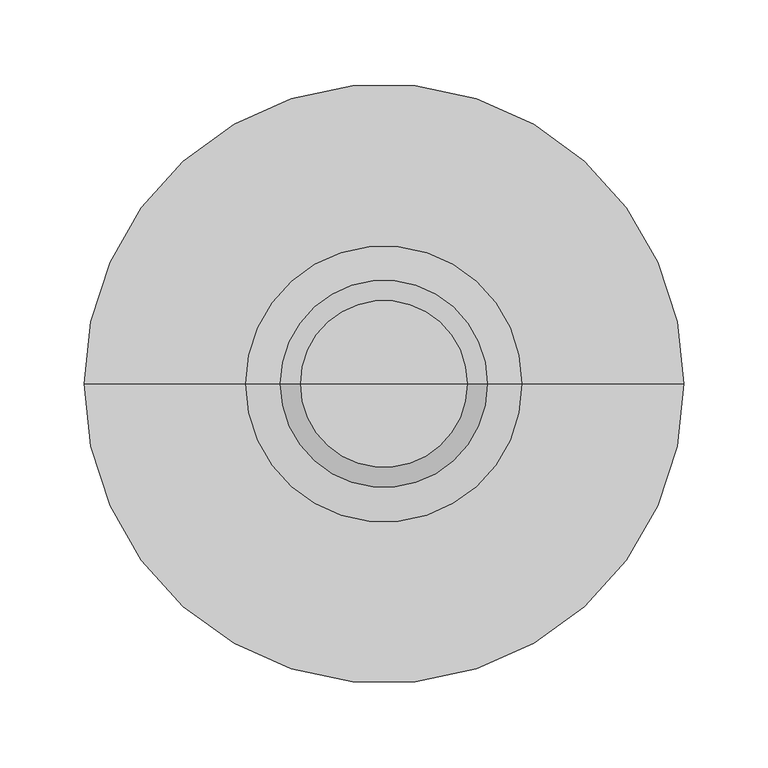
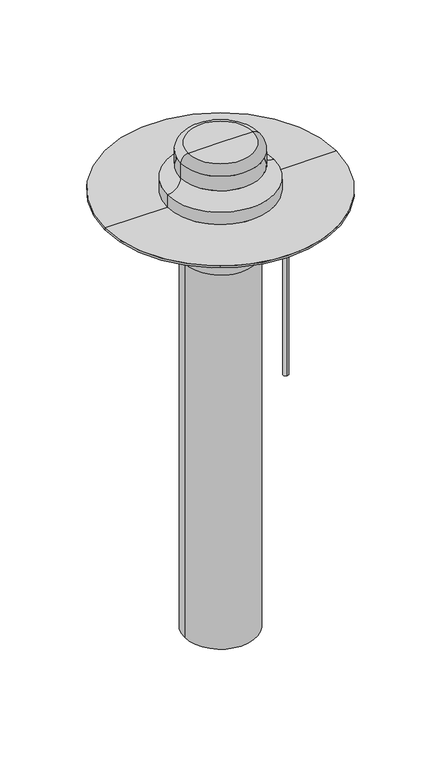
"""IFC4 building model written with IfcOpenShell, lengths in millimetres: flow terminal geometry, BIMLIB_Воронка_Кровельная_Fachmann_VMO : 110х720."""

from ifc_helpers import new_model, si_unit, point, frame, frame_2d, origin, origin_with_axes, place, context, project, spatial, polyline, circle_curve, ellipse_curve, trimmed, segment, composite_curve, outline, extrude, source, transform, mapped, element, save
from ifc_brep_helpers import plane_surface, cylinder_surface, revolved_surface, advanced_brep


def flow_terminal_63c5b1d7(model_context):
    return source(origin(), model_context, "Body", "SolidModel", [
        extrude(outline(composite_curve([segment(trimmed(circle_curve(frame_2d((100.0, 0.0)), 4.0), [point((100.0, 4.0))], [point((100.0, -4.0))], False, "CARTESIAN"), True, "CONTINUOUS"), segment(trimmed(circle_curve(frame_2d((100.0, 0.0)), 4.0), [point((100.0, -4.0))], [point((100.0, 4.0))], False, "CARTESIAN"), True, "CONTINUOUS")], self_intersect=False)), frame((0.0, 0.0, -332.0), z_axis=(0.0, 0.0, 1.0), x_axis=(1.0, 0.0, 0.0)), (0.0, 0.0, 1.0), 300.0),
        advanced_brep(
        [(55.0, 0.0, -705.0), (-55.0, 0.0, -705.0), (-55.0, 0.0, -98.0), (55.0, 0.0, -98.0), (-113.0, 0.0, -9.0), (113.0, 0.0, -9.0), (113.0, 0.0, -32.0), (-113.0, 0.0, -32.0), (0.0, 0.0, 0.0), (138.0, 0.0, 0.0), (-138.0, 0.0, 0.0), (-90.0, 0.0, -32.0), (90.0, 0.0, -32.0), (90.0, 0.0, -40.0), (-90.0, 0.0, -40.0)],
        [
            (0, 1, circle_curve(frame((0.0, 0.0, -705.0), z_axis=(0.0, 0.0, -1.0), x_axis=(-1.0, 0.0, 0.0)), 55.0)),
            (1, 0, circle_curve(frame((0.0, 0.0, -705.0), z_axis=(0.0, 0.0, -1.0), x_axis=(-1.0, 0.0, 0.0)), 55.0)),
            (1, 2),
            (2, 3, circle_curve(frame((0.0, 0.0, -98.0), z_axis=(0.0, 0.0, -1.0), x_axis=(-1.0, 0.0, 0.0)), 55.0)),
            (3, 0),
            (3, 2, circle_curve(frame((0.0, 0.0, -98.0), z_axis=(0.0, 0.0, -1.0), x_axis=(-1.0, 0.0, 0.0)), 55.0)),
            (4, 5, circle_curve(frame((0.0, 0.0, -9.0), z_axis=(0.0, 0.0, -1.0), x_axis=(1.0, 0.0, 0.0)), 113.0)),
            (5, 6),
            (6, 7, circle_curve(frame((0.0, 0.0, -32.0), z_axis=(0.0, 0.0, 1.0), x_axis=(1.0, 0.0, 0.0)), 113.0)),
            (7, 4),
            (5, 4, circle_curve(frame((0.0, 0.0, -9.0), z_axis=(0.0, 0.0, -1.0), x_axis=(1.0, 0.0, 0.0)), 113.0)),
            (7, 6, circle_curve(frame((0.0, 0.0, -32.0), z_axis=(0.0, 0.0, 1.0), x_axis=(1.0, 0.0, 0.0)), 113.0)),
            (8, 9),
            (9, 10, circle_curve(origin_with_axes(), 138.0)),
            (10, 8),
            (10, 9, circle_curve(origin_with_axes(), 138.0)),
            (4, 10),
            (9, 5),
            (11, 12, circle_curve(frame((0.0, 0.0, -32.0), z_axis=(0.0, 0.0, -1.0), x_axis=(1.0, 0.0, 0.0)), 90.0)),
            (12, 13),
            (13, 14, circle_curve(frame((0.0, 0.0, -40.0), z_axis=(0.0, 0.0, 1.0), x_axis=(1.0, 0.0, 0.0)), 90.0)),
            (14, 11),
            (12, 11, circle_curve(frame((0.0, 0.0, -32.0), z_axis=(0.0, 0.0, -1.0), x_axis=(1.0, 0.0, 0.0)), 90.0)),
            (14, 13, circle_curve(frame((0.0, 0.0, -40.0), z_axis=(0.0, 0.0, 1.0), x_axis=(1.0, 0.0, 0.0)), 90.0)),
            (6, 12),
            (11, 7),
            (13, 3),
            (2, 14),
        ],
        [
            plane_surface(frame((-55.0, 0.0, -705.0), z_axis=(0.0, 0.0, -1.0), x_axis=(0.0, 1.0, 0.0))),
            cylinder_surface(frame((0.0, 0.0, -705.0), z_axis=(0.0, 0.0, 1.0), x_axis=(-1.0, 0.0, 0.0)), 55.0),
            cylinder_surface(frame((0.0, 0.0, 159.0), z_axis=(0.0, 0.0, 1.0), x_axis=(1.0, 0.0, 0.0)), 113.0),
            plane_surface(origin_with_axes()),
            revolved_surface(polyline([(113.0, 0.0, -9.0), (138.0, 0.0, 0.0)]), (0.0, 0.0, 159.0), (0.0, 0.0, 1.0)),
            cylinder_surface(frame((0.0, 0.0, 159.0), z_axis=(0.0, 0.0, 1.0), x_axis=(1.0, 0.0, 0.0)), 90.0),
            plane_surface(frame((0.0, 0.0, -32.0), z_axis=(0.0, 0.0, -1.0), x_axis=(1.0, 0.0, 0.0))),
            revolved_surface(polyline([(55.0, 0.0, -98.0), (90.0, 0.0, -40.0)]), (0.0, 0.0, 159.0), (0.0, 0.0, 1.0)),
        ],
        [
            (0, [[1, 2]]),
            (1, [[-2, 3, 4, 5]]),
            (1, [[-1, -5, 6, -3]]),
            (2, [[7, 8, 9, 10]]),
            (2, [[-8, 11, -10, 12]]),
            (3, [[13, 14, 15]]),
            (3, [[-13, -15, 16]]),
            (4, [[-7, 17, -14, 18]]),
            (4, [[-11, -18, -16, -17]]),
            (5, [[19, 20, 21, 22]]),
            (5, [[-20, 23, -22, 24]]),
            (6, [[-9, 25, -19, 26]]),
            (6, [[-12, -26, -23, -25]]),
            (7, [[-21, 27, -4, 28]]),
            (7, [[-24, -28, -6, -27]]),
        ],
    ),
        advanced_brep(
        [(0.0, 0.0, 79.0), (49.5, 0.0, 79.0), (-49.5, 0.0, 79.0), (-178.0, 0.0, 0.0), (178.0, 0.0, 0.0), (0.0, 0.0, 0.0), (-178.0, 0.0, 3.0), (178.0, 0.0, 3.0), (-82.0, 0.0, 3.0), (82.0, 0.0, 3.0), (-61.5, 0.0, 67.0), (61.5, 0.0, 67.0), (61.5, 0.0, 43.5), (-61.5, 0.0, 43.5), (-82.0, 0.0, 23.0), (82.0, 0.0, 23.0)],
        [
            (0, 1),
            (1, 2, circle_curve(frame((0.0, 0.0, 79.0), z_axis=(0.0, 0.0, 1.0), x_axis=(1.0, 0.0, 0.0)), 49.5)),
            (2, 0),
            (2, 1, circle_curve(frame((0.0, 0.0, 79.0), z_axis=(0.0, 0.0, 1.0), x_axis=(1.0, 0.0, 0.0)), 49.5)),
            (3, 4, circle_curve(frame((0.0, 0.0, 0.0), z_axis=(0.0, 0.0, -1.0), x_axis=(1.0, 0.0, 0.0)), 178.0)),
            (4, 5),
            (5, 3),
            (4, 3, circle_curve(frame((0.0, 0.0, 0.0), z_axis=(0.0, 0.0, -1.0), x_axis=(1.0, 0.0, 0.0)), 178.0)),
            (6, 7, circle_curve(frame((0.0, 0.0, 3.0), z_axis=(0.0, 0.0, -1.0), x_axis=(1.0, 0.0, 0.0)), 178.0)),
            (7, 4),
            (3, 6),
            (7, 6, circle_curve(frame((0.0, 0.0, 3.0), z_axis=(0.0, 0.0, -1.0), x_axis=(1.0, 0.0, 0.0)), 178.0)),
            (8, 9, circle_curve(frame((0.0, 0.0, 3.0), z_axis=(0.0, 0.0, -1.0), x_axis=(1.0, 0.0, 0.0)), 82.0)),
            (9, 7),
            (6, 8),
            (9, 8, circle_curve(frame((0.0, 0.0, 3.0), z_axis=(0.0, 0.0, -1.0), x_axis=(1.0, 0.0, 0.0)), 82.0)),
            (10, 11, circle_curve(frame((0.0, 0.0, 67.0), z_axis=(0.0, 0.0, -1.0), x_axis=(1.0, 0.0, 0.0)), 61.5)),
            (11, 12),
            (12, 13, circle_curve(frame((0.0, 0.0, 43.5), z_axis=(0.0, 0.0, 1.0), x_axis=(1.0, 0.0, 0.0)), 61.5)),
            (13, 10),
            (11, 10, circle_curve(frame((0.0, 0.0, 67.0), z_axis=(0.0, 0.0, -1.0), x_axis=(1.0, 0.0, 0.0)), 61.5)),
            (13, 12, circle_curve(frame((0.0, 0.0, 43.5), z_axis=(0.0, 0.0, 1.0), x_axis=(1.0, 0.0, 0.0)), 61.5)),
            (1, 11, circle_curve(frame((49.5, 0.0, 67.0), z_axis=(0.0, 1.0, 0.0), x_axis=(1.0, 0.0, 0.0)), 12.0)),
            (10, 2, circle_curve(frame((-49.5, 0.0, 67.0), z_axis=(0.0, 1.0, 0.0), x_axis=(-1.0, 0.0, 0.0)), 12.0)),
            (14, 15, circle_curve(frame((0.0, 0.0, 23.0), z_axis=(0.0, 0.0, -1.0), x_axis=(1.0, 0.0, 0.0)), 82.0)),
            (15, 9),
            (8, 14),
            (15, 14, circle_curve(frame((0.0, 0.0, 23.0), z_axis=(0.0, 0.0, -1.0), x_axis=(1.0, 0.0, 0.0)), 82.0)),
            (12, 15, circle_curve(frame((82.0, 0.0, 43.5), z_axis=(0.0, -1.0, 0.0), x_axis=(1.0, 0.0, 0.0)), 20.5)),
            (14, 13, circle_curve(frame((-82.0, 0.0, 43.5), z_axis=(0.0, -1.0, 0.0), x_axis=(-1.0, 0.0, 0.0)), 20.5)),
        ],
        [
            plane_surface(frame((0.0, 0.0, 79.0), z_axis=(0.0, 0.0, 1.0), x_axis=(1.0, 0.0, 0.0))),
            plane_surface(frame((0.0, 0.0, 0.0), z_axis=(0.0, 0.0, -1.0), x_axis=(1.0, 0.0, 0.0))),
            cylinder_surface(frame((0.0, 0.0, 229.0), z_axis=(0.0, 0.0, 1.0), x_axis=(1.0, 0.0, 0.0)), 178.0),
            plane_surface(frame((0.0, 0.0, 3.0), z_axis=(0.0, 0.0, 1.0), x_axis=(1.0, 0.0, 0.0))),
            cylinder_surface(frame((0.0, 0.0, 229.0), z_axis=(0.0, 0.0, 1.0), x_axis=(1.0, 0.0, 0.0)), 61.5),
            revolved_surface(trimmed(ellipse_curve(frame((49.5, 0.0, 67.0), z_axis=(0.0, -1.0, 0.0), x_axis=(1.0, 0.0, 0.0)), 12.0, 12.0), [point((61.5, 0.0, 67.0))], [point((49.5, 0.0, 79.0))], True, "CARTESIAN"), (0.0, 0.0, 229.0), (0.0, 0.0, 1.0)),
            cylinder_surface(frame((0.0, 0.0, 229.0), z_axis=(0.0, 0.0, 1.0), x_axis=(1.0, 0.0, 0.0)), 82.0),
            revolved_surface(trimmed(ellipse_curve(frame((82.0, 0.0, 43.5), z_axis=(0.0, 1.0, 0.0), x_axis=(1.0, 0.0, 0.0)), 20.5, 20.5), [point((82.0, 0.0, 23.0))], [point((61.5, 0.0, 43.5))], True, "CARTESIAN"), (0.0, 0.0, 229.0), (0.0, 0.0, 1.0)),
        ],
        [
            (0, [[1, 2, 3]]),
            (0, [[-3, 4, -1]]),
            (1, [[5, 6, 7]]),
            (1, [[8, -7, -6]]),
            (2, [[9, 10, -5, 11]]),
            (2, [[12, -11, -8, -10]]),
            (3, [[13, 14, -9, 15]]),
            (3, [[16, -15, -12, -14]]),
            (4, [[17, 18, 19, 20]]),
            (4, [[21, -20, 22, -18]]),
            (5, [[-2, 23, -17, 24]]),
            (5, [[-4, -24, -21, -23]]),
            (6, [[25, 26, -13, 27]]),
            (6, [[28, -27, -16, -26]]),
            (7, [[-19, 29, -25, 30]]),
            (7, [[-22, -30, -28, -29]]),
        ],
    ),
    ])


if __name__ == "__main__":
    model = new_model("IFC4")
    model_context = context("Model", 3, world=origin())
    ifc_project = project(units=[si_unit("LENGTHUNIT", "METRE", prefix="MILLI")], contexts=[model_context])
    site = spatial("IfcSite", under=ifc_project)
    building = spatial("IfcBuilding", under=site)
    placement = place(None, origin())
    flow_terminal_shape = flow_terminal_63c5b1d7(model_context)
    element("IfcFlowTerminal", 1, ObjectType="BIMLIB_Воронка_Кровельная_Fachmann_VMO : 110х720", at=placement, inside=building, context=model_context, shape_type="MappedRepresentation", body=[
        mapped(flow_terminal_shape, transform((0.0, 0.0, 0.0), x_axis=(1.0, 0.0, 0.0), y_axis=(0.0, 1.0, 0.0), z_axis=(0.0, 0.0, 1.0))),
    ])
    save(model, "model.ifc")
